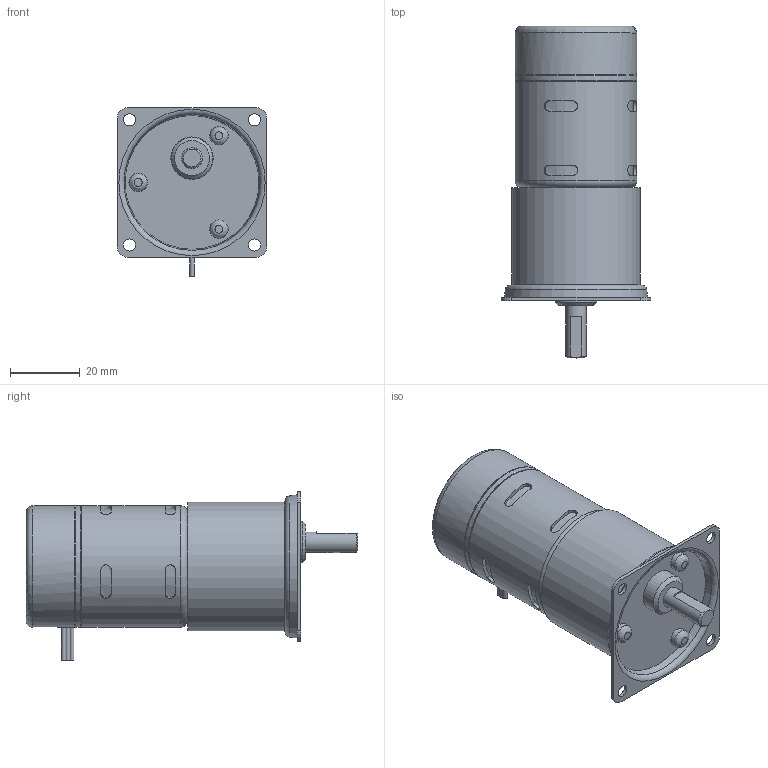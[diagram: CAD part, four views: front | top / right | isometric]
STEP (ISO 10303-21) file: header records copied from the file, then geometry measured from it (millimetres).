
FILE_DESCRIPTION((''),'2;1');
FILE_NAME('C:\Documents and Settings\SSEGAWA\デスクトップ\TP-3546B-PM-4.STP','2013-07-30T16:55:04',('SSEGAWA'),(''),'Autodesk Inventor 2010','Autodesk Inventor 2010','');
FILE_SCHEMA(('CONFIG_CONTROL_DESIGN'));
Length unit declared in the file: millimetre
Products named in the file (1): tp_3546bd_pm_4_Shrinkwrap_1
Bounding box: 43 x 95.5 x 48.5 mm (x, y, z)
Volume: 77403.6 mm3; surface area: 15049.8 mm2
Topology: 1 solids, 13 shells, 144 faces, 305 edges, 198 vertices
Faces by surface type: plane 62, cylinder 51, bspline 23, torus 4, cone 4
Full cylindrical faces by diameter (mm): 1.2 x2, 4 x3, 5.3 x3, 6 x1, 12 x1, 12.2 x1, 34.6 x1, 35 x3, 37 x1
Entity records: 4498 total; most frequent: CARTESIAN_POINT 1592, DIRECTION 573, ORIENTED_EDGE 474, AXIS2_PLACEMENT_3D 248, EDGE_CURVE 237, EDGE_LOOP 209, VERTEX_POINT 174, STYLED_ITEM 145
